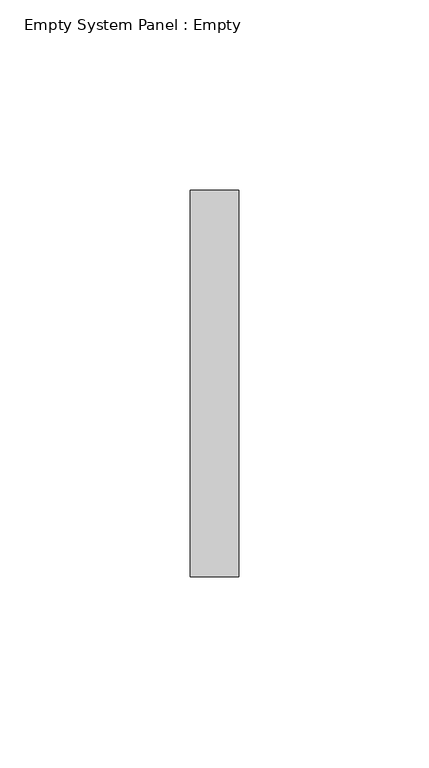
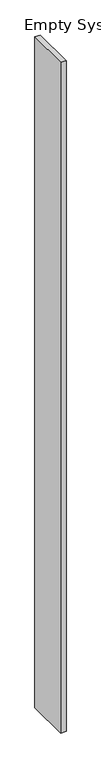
"""IFC4 building model written with IfcOpenShell, lengths in millimetres: plate geometry, Empty System Panel : Empty."""

from ifc_helpers import new_model, si_unit, frame, origin, place, context, project, spatial, polyline, outline, extrude, source, transform, mapped, element, save


def empty_system_panel_empty_d271cbc0(model_context):
    return source(origin(), model_context, "Body", "SweptSolid", [
        extrude(outline(polyline([(0.0, -6.35), (0.0, 6.35), (1623.4453719, 6.35), (1624.8658437, -6.35), (0.0, -6.35)])), frame((0.0, -50.8, 0.0), z_axis=(0.0, 1.0, 0.0), x_axis=(0.0, 0.0, 1.0)), (0.0, 0.0, 1.0), 101.6),
    ])


if __name__ == "__main__":
    model = new_model("IFC4")
    model_context = context("Model", 3, world=origin())
    ifc_project = project(units=[si_unit("LENGTHUNIT", "METRE", prefix="MILLI")], contexts=[model_context])
    site = spatial("IfcSite", under=ifc_project)
    building = spatial("IfcBuilding", under=site)
    placement = place(None, origin())
    empty_system_panel_empty_shape = empty_system_panel_empty_d271cbc0(model_context)
    element("IfcPlate", 1, ObjectType="Empty System Panel : Empty", at=placement, inside=building, context=model_context, shape_type="MappedRepresentation", body=[
        mapped(empty_system_panel_empty_shape, transform((0.0, 0.0, 0.0), x_axis=(1.0, 0.0, 0.0), y_axis=(0.0, 1.0, 0.0), z_axis=(0.0, 0.0, 1.0))),
    ])
    save(model, "model.ifc")
